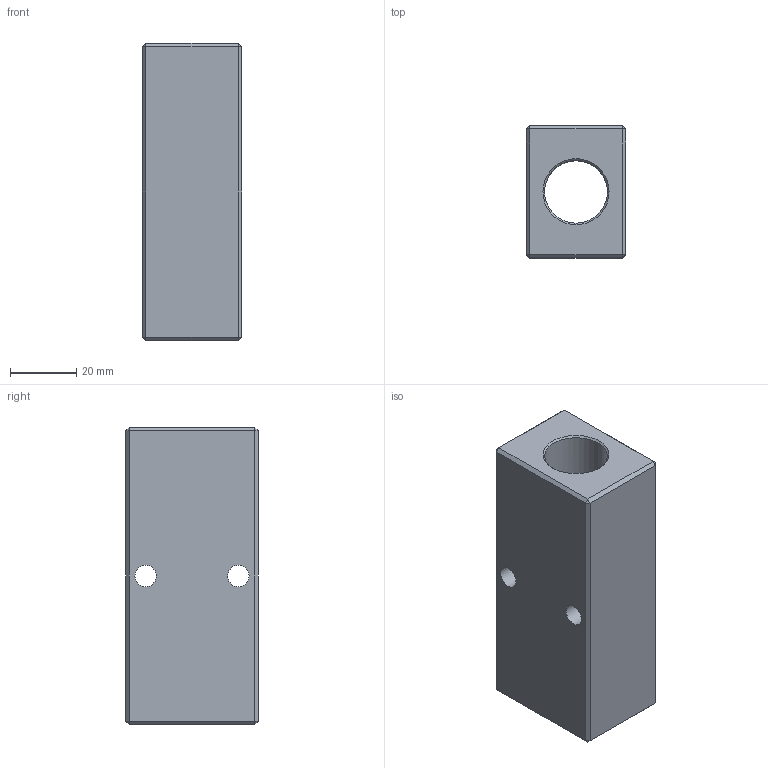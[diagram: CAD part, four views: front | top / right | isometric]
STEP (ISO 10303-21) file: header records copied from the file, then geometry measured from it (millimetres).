
FILE_DESCRIPTION(/* description */ (''),/* implementation_level */ '2;1');
FILE_NAME(/* name */ 'BXH87 2B4 02B3.stp',/* time_stamp */ '2024-11-15T14:36:19+01:00',/* author */ ('freju'),/* organization */ (''),/* preprocessor_version */ 'ST-DEVELOPER v20',/* originating_system */ 'Autodesk Inventor 2025',/* authorisation */ '');
FILE_SCHEMA (('AUTOMOTIVE_DESIGN { 1 0 10303 214 3 1 1 }','TECHNICAL_DATA_PACKAGING'));
Length unit declared in the file: millimetre
Products named in the file (1): BXH87 2B4 02B3
Bounding box: 30 x 40 x 90 mm (x, y, z)
Volume: 76004.6 mm3; surface area: 20864.9 mm2
Topology: 1 solids, 1 shells, 35 faces, 74 edges, 41 vertices
Faces by surface type: plane 26, cylinder 5, cone 4
Full cylindrical faces by diameter (mm): 6.5 x2, 15.25 x2, 19 x1
Entity records: 1044 total; most frequent: CARTESIAN_POINT 233, DIRECTION 159, ORIENTED_EDGE 148, EDGE_CURVE 74, LINE 57, VECTOR 57, AXIS2_PLACEMENT_3D 51, EDGE_LOOP 45
